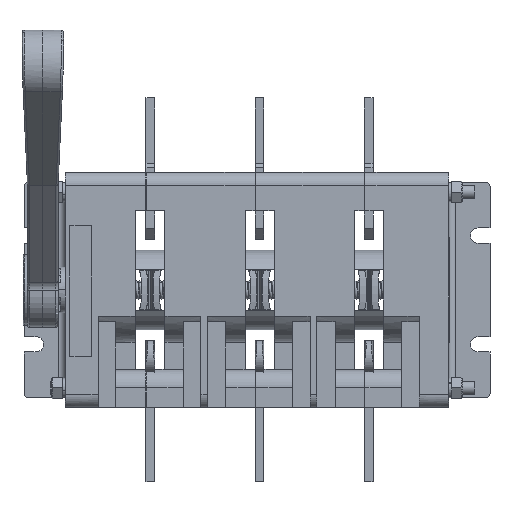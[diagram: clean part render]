
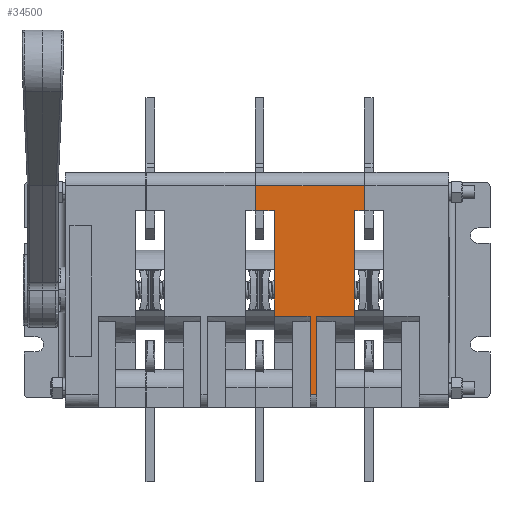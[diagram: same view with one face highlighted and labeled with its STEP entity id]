
A CAD part, front view. The second image highlights one B-rep face of the part: STEP entity #34500.
In plain terms, the highlighted planar face has unit normal (0, -1, 0) as drawn and (0, 1, 0) by its records, which use the part's own axes.
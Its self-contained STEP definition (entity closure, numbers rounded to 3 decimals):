
#583 = VERTEX_POINT ( 'NONE', #37140 ) ;
#1337 = EDGE_CURVE ( 'NONE', #23818, #36913, #40442, .T. ) ;
#2115 = VECTOR ( 'NONE', #36147, 1000. ) ;
#2495 = ORIENTED_EDGE ( 'NONE', *, *, #27599, .F. ) ;
#2991 = DIRECTION ( 'NONE',  ( 0., 0., -1. ) ) ;
#3296 = DIRECTION ( 'NONE',  ( -1., 0., 0. ) ) ;
#3495 = EDGE_CURVE ( 'NONE', #37074, #35868, #32351, .T. ) ;
#4501 = CARTESIAN_POINT ( 'NONE',  ( 36.5, 24., 41.5 ) ) ;
#4606 = DIRECTION ( 'NONE',  ( -1., 0., 0. ) ) ;
#5901 = VECTOR ( 'NONE', #17975, 1000. ) ;
#6134 = EDGE_CURVE ( 'NONE', #23566, #583, #18810, .T. ) ;
#6961 = VERTEX_POINT ( 'NONE', #14841 ) ;
#7082 = CARTESIAN_POINT ( 'NONE',  ( -48., 24., 19.5 ) ) ;
#7376 = DIRECTION ( 'NONE',  ( 0., -1., 0. ) ) ;
#7719 = EDGE_CURVE ( 'NONE', #36913, #36137, #27286, .T. ) ;
#7771 = DIRECTION ( 'NONE',  ( -1., 0., 0. ) ) ;
#8931 = DIRECTION ( 'NONE',  ( -1., 0., 0. ) ) ;
#9166 = LINE ( 'NONE', #22629, #10171 ) ;
#10087 = CARTESIAN_POINT ( 'NONE',  ( 48., 24., -8.5 ) ) ;
#10158 = VECTOR ( 'NONE', #3296, 1000. ) ;
#10171 = VECTOR ( 'NONE', #28607, 1000. ) ;
#10549 = ORIENTED_EDGE ( 'NONE', *, *, #13364, .F. ) ;
#10618 = DIRECTION ( 'NONE',  ( 1., 0., 0. ) ) ;
#11110 = VECTOR ( 'NONE', #8931, 1000. ) ;
#11292 = EDGE_CURVE ( 'NONE', #6961, #11305, #34705, .T. ) ;
#11305 = VERTEX_POINT ( 'NONE', #32636 ) ;
#11428 = VECTOR ( 'NONE', #7771, 1000. ) ;
#11595 = VERTEX_POINT ( 'NONE', #34031 ) ;
#12573 = VECTOR ( 'NONE', #2991, 1000. ) ;
#13364 = EDGE_CURVE ( 'NONE', #11595, #29025, #36191, .T. ) ;
#14488 = CARTESIAN_POINT ( 'NONE',  ( 36.5, 24., -8.5 ) ) ;
#14841 = CARTESIAN_POINT ( 'NONE',  ( 36.5, 24., 37. ) ) ;
#15860 = ORIENTED_EDGE ( 'NONE', *, *, #37331, .F. ) ;
#16104 = ORIENTED_EDGE ( 'NONE', *, *, #1337, .T. ) ;
#16380 = FACE_OUTER_BOUND ( 'NONE', #20005, .T. ) ;
#16904 = VERTEX_POINT ( 'NONE', #4501 ) ;
#17154 = CARTESIAN_POINT ( 'NONE',  ( -48., 24., 16.5 ) ) ;
#17170 = CARTESIAN_POINT ( 'NONE',  ( 36.5, 24., -8.5 ) ) ;
#17267 = CARTESIAN_POINT ( 'NONE',  ( -48., 24., 16.5 ) ) ;
#17283 = VECTOR ( 'NONE', #30677, 1000. ) ;
#17815 = AXIS2_PLACEMENT_3D ( 'NONE', #33021, #7376, #10618 ) ;
#17974 = CARTESIAN_POINT ( 'NONE',  ( 36.5, 24., 0. ) ) ;
#17975 = DIRECTION ( 'NONE',  ( 0., 0., 1. ) ) ;
#18217 = EDGE_CURVE ( 'NONE', #37074, #16904, #19093, .T. ) ;
#18479 = CARTESIAN_POINT ( 'NONE',  ( 36.5, 24., 41.5 ) ) ;
#18810 = LINE ( 'NONE', #17170, #36870 ) ;
#18849 = CARTESIAN_POINT ( 'NONE',  ( -48., 24., 19.5 ) ) ;
#19093 = LINE ( 'NONE', #26102, #2115 ) ;
#19178 = CARTESIAN_POINT ( 'NONE',  ( 36.5, 24., 37. ) ) ;
#20005 = EDGE_LOOP ( 'NONE', ( #10549, #15860, #30888, #2495, #37447, #20469, #20421, #28941, #20689, #16104, #34505, #37696 ) ) ;
#20122 = EDGE_CURVE ( 'NONE', #23566, #35868, #35709, .T. ) ;
#20206 = VECTOR ( 'NONE', #4606, 1000. ) ;
#20388 = DIRECTION ( 'NONE',  ( 0., 0., 1. ) ) ;
#20421 = ORIENTED_EDGE ( 'NONE', *, *, #20122, .F. ) ;
#20469 = ORIENTED_EDGE ( 'NONE', *, *, #3495, .T. ) ;
#20689 = ORIENTED_EDGE ( 'NONE', *, *, #33265, .T. ) ;
#21738 = DIRECTION ( 'NONE',  ( 0., 0., -1. ) ) ;
#22629 = CARTESIAN_POINT ( 'NONE',  ( -12., 24., 49.423 ) ) ;
#23566 = VERTEX_POINT ( 'NONE', #14488 ) ;
#23753 = VECTOR ( 'NONE', #21738, 1000. ) ;
#23818 = VERTEX_POINT ( 'NONE', #40682 ) ;
#24834 = CARTESIAN_POINT ( 'NONE',  ( 48., 24., -8.5 ) ) ;
#26102 = CARTESIAN_POINT ( 'NONE',  ( 36.5, 24., 41.5 ) ) ;
#27286 = LINE ( 'NONE', #17154, #20206 ) ;
#27599 = EDGE_CURVE ( 'NONE', #16904, #6961, #31643, .T. ) ;
#28607 = DIRECTION ( 'NONE',  ( 0., 0., -1. ) ) ;
#28941 = ORIENTED_EDGE ( 'NONE', *, *, #6134, .T. ) ;
#29025 = VERTEX_POINT ( 'NONE', #7082 ) ;
#29793 = CARTESIAN_POINT ( 'NONE',  ( 48., 24., 41.5 ) ) ;
#29827 = PLANE ( 'NONE',  #17815 ) ;
#30677 = DIRECTION ( 'NONE',  ( 0., 0., -1. ) ) ;
#30888 = ORIENTED_EDGE ( 'NONE', *, *, #11292, .F. ) ;
#31148 = CARTESIAN_POINT ( 'NONE',  ( -48., 24., 19.5 ) ) ;
#31643 = LINE ( 'NONE', #18479, #12573 ) ;
#32277 = LINE ( 'NONE', #31148, #23753 ) ;
#32351 = LINE ( 'NONE', #40448, #17283 ) ;
#32636 = CARTESIAN_POINT ( 'NONE',  ( -12., 24., 37. ) ) ;
#33021 = CARTESIAN_POINT ( 'NONE',  ( -48., 24., 19.5 ) ) ;
#33265 = EDGE_CURVE ( 'NONE', #583, #23818, #38016, .T. ) ;
#34031 = CARTESIAN_POINT ( 'NONE',  ( -12., 24., 19.5 ) ) ;
#34462 = DIRECTION ( 'NONE',  ( 1., 0., 0. ) ) ;
#34500 = ADVANCED_FACE ( 'NONE', ( #16380 ), #29827, .F. ) ;
#34505 = ORIENTED_EDGE ( 'NONE', *, *, #7719, .T. ) ;
#34705 = LINE ( 'NONE', #19178, #10158 ) ;
#35119 = CARTESIAN_POINT ( 'NONE',  ( -12., 24., 16.5 ) ) ;
#35709 = LINE ( 'NONE', #24834, #39168 ) ;
#35868 = VERTEX_POINT ( 'NONE', #10087 ) ;
#36137 = VERTEX_POINT ( 'NONE', #17267 ) ;
#36147 = DIRECTION ( 'NONE',  ( -1., 0., 0. ) ) ;
#36191 = LINE ( 'NONE', #18849, #11110 ) ;
#36512 = EDGE_CURVE ( 'NONE', #29025, #36137, #32277, .T. ) ;
#36870 = VECTOR ( 'NONE', #20388, 1000. ) ;
#36913 = VERTEX_POINT ( 'NONE', #35119 ) ;
#37074 = VERTEX_POINT ( 'NONE', #29793 ) ;
#37140 = CARTESIAN_POINT ( 'NONE',  ( 36.5, 24., 0. ) ) ;
#37331 = EDGE_CURVE ( 'NONE', #11305, #11595, #9166, .T. ) ;
#37447 = ORIENTED_EDGE ( 'NONE', *, *, #18217, .F. ) ;
#37696 = ORIENTED_EDGE ( 'NONE', *, *, #36512, .F. ) ;
#38016 = LINE ( 'NONE', #17974, #11428 ) ;
#39168 = VECTOR ( 'NONE', #34462, 1000. ) ;
#40442 = LINE ( 'NONE', #40672, #5901 ) ;
#40448 = CARTESIAN_POINT ( 'NONE',  ( 48., 24., 19.5 ) ) ;
#40672 = CARTESIAN_POINT ( 'NONE',  ( -12., 24., -12.423 ) ) ;
#40682 = CARTESIAN_POINT ( 'NONE',  ( -12., 24., 0. ) ) ;
